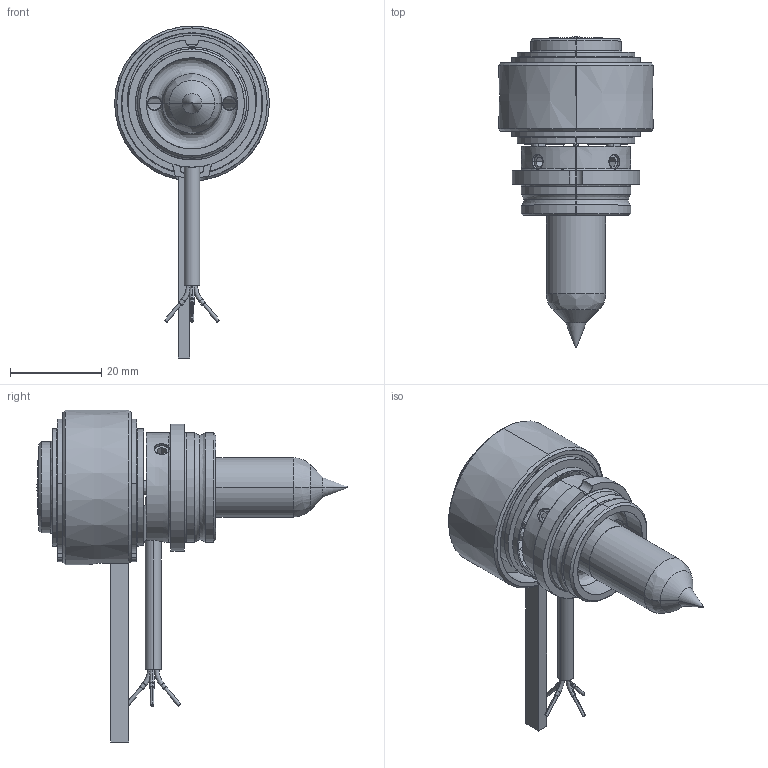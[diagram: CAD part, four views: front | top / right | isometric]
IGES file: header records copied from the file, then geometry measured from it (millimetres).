
Start section: SolidWorks IGES file using analytic representation for surfaces
Global section: file name: C:\Documents and Settings\ws-20\Desktop\TEM\UGGS2510-M-0 [Øf-0.25].IGS; native system: SolidWorks 2012; preprocessor: SolidWorks 2012; author: ws-20; date: 120516.092542; units: millimetre
Bounding box: 34 x 68.3 x 72.9 mm (x, y, z)
Surface area: 14474.3 mm2 (no closed solid volume)
Topology: 0 solids, 0 shells, 206 faces, 2895 edges, 2889 vertices
Faces by surface type: revolution 121, bspline 85
